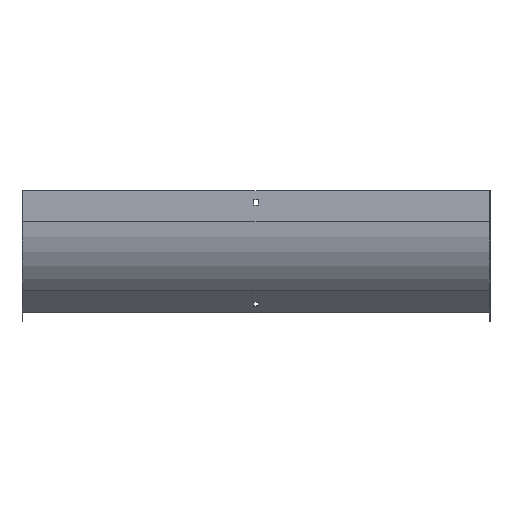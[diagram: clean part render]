
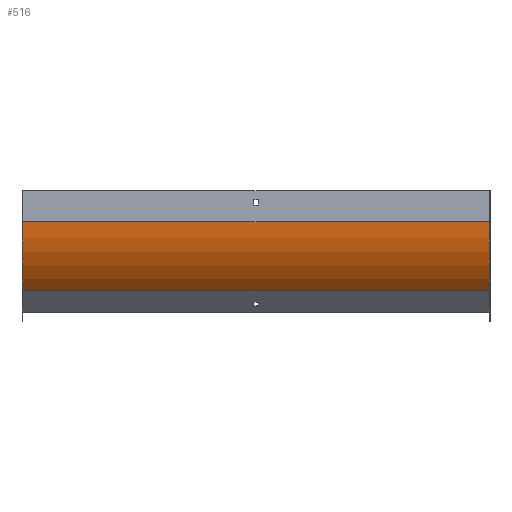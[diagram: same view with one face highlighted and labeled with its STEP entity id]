
A CAD part, front view. The second image highlights one B-rep face of the part: STEP entity #516.
In plain terms, the highlighted cylindrical face has radius 125 mm (diameter 250 mm), a partial arc.
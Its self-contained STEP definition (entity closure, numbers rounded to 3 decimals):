
#44 = LINE ( 'NONE', #832, #747 ) ;
#88 = FACE_OUTER_BOUND ( 'NONE', #768, .T. ) ;
#107 = DIRECTION ( 'NONE',  ( -1., 0., 0. ) ) ;
#114 = DIRECTION ( 'NONE',  ( -1., 0., 0. ) ) ;
#116 = VERTEX_POINT ( 'NONE', #265 ) ;
#120 = CIRCLE ( 'NONE', #777, 125. ) ;
#123 = DIRECTION ( 'NONE',  ( -1., 0., 0. ) ) ;
#141 = ORIENTED_EDGE ( 'NONE', *, *, #310, .T. ) ;
#148 = EDGE_CURVE ( 'NONE', #361, #244, #44, .T. ) ;
#165 = EDGE_CURVE ( 'NONE', #620, #244, #262, .T. ) ;
#204 = DIRECTION ( 'NONE',  ( 0., 0., -1. ) ) ;
#230 = ORIENTED_EDGE ( 'NONE', *, *, #165, .F. ) ;
#244 = VERTEX_POINT ( 'NONE', #493 ) ;
#262 = CIRCLE ( 'NONE', #371, 125. ) ;
#265 = CARTESIAN_POINT ( 'NONE',  ( 300., 35.612, -128.388 ) ) ;
#302 = CARTESIAN_POINT ( 'NONE',  ( -300., 35.612, -128.388 ) ) ;
#310 = EDGE_CURVE ( 'NONE', #116, #361, #120, .T. ) ;
#324 = EDGE_CURVE ( 'NONE', #116, #620, #858, .T. ) ;
#340 = CARTESIAN_POINT ( 'NONE',  ( 301., 35.612, -128.388 ) ) ;
#361 = VERTEX_POINT ( 'NONE', #671 ) ;
#371 = AXIS2_PLACEMENT_3D ( 'NONE', #708, #107, #574 ) ;
#444 = ORIENTED_EDGE ( 'NONE', *, *, #324, .F. ) ;
#493 = CARTESIAN_POINT ( 'NONE',  ( -300., -1., -40. ) ) ;
#516 = ADVANCED_FACE ( 'NONE', ( #88 ), #614, .T. ) ;
#524 = VECTOR ( 'NONE', #666, 1000. ) ;
#525 = AXIS2_PLACEMENT_3D ( 'NONE', #691, #114, #583 ) ;
#574 = DIRECTION ( 'NONE',  ( 0., 0., -1. ) ) ;
#583 = DIRECTION ( 'NONE',  ( 0., 0., 1. ) ) ;
#600 = CARTESIAN_POINT ( 'NONE',  ( 300., 124., -40. ) ) ;
#614 = CYLINDRICAL_SURFACE ( 'NONE', #525, 125. ) ;
#620 = VERTEX_POINT ( 'NONE', #302 ) ;
#666 = DIRECTION ( 'NONE',  ( -1., 0., 0. ) ) ;
#671 = CARTESIAN_POINT ( 'NONE',  ( 300., -1., -40. ) ) ;
#691 = CARTESIAN_POINT ( 'NONE',  ( 301., 124., -40. ) ) ;
#708 = CARTESIAN_POINT ( 'NONE',  ( -300., 124., -40. ) ) ;
#747 = VECTOR ( 'NONE', #123, 1000. ) ;
#768 = EDGE_LOOP ( 'NONE', ( #230, #444, #141, #779 ) ) ;
#777 = AXIS2_PLACEMENT_3D ( 'NONE', #600, #863, #204 ) ;
#779 = ORIENTED_EDGE ( 'NONE', *, *, #148, .T. ) ;
#832 = CARTESIAN_POINT ( 'NONE',  ( 301., -1., -40. ) ) ;
#858 = LINE ( 'NONE', #340, #524 ) ;
#863 = DIRECTION ( 'NONE',  ( -1., 0., 0. ) ) ;
